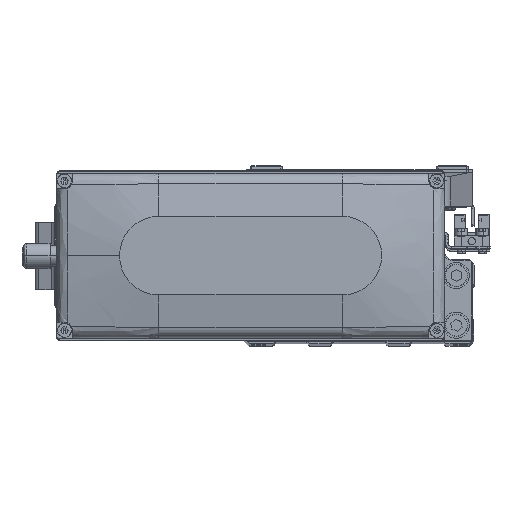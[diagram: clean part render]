
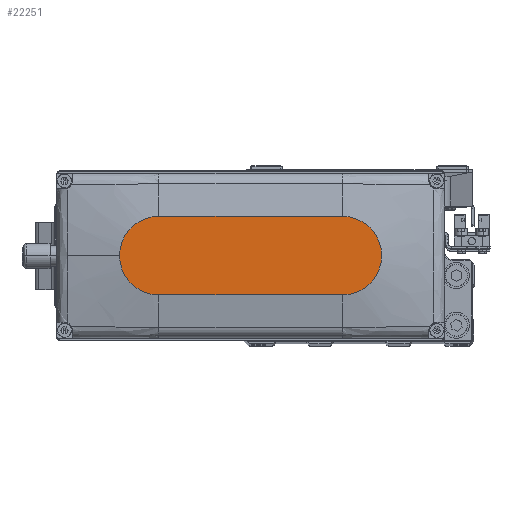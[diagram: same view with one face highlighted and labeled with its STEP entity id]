
A CAD part, top view. The second image highlights one B-rep face of the part: STEP entity #22251.
In plain terms, the highlighted planar face has unit normal (0, 0, 1).
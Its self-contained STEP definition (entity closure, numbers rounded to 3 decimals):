
#75 = CIRCLE ( 'NONE', #27235, 15. ) ;
#492 = VERTEX_POINT ( 'NONE', #5574 ) ;
#1291 = DIRECTION ( 'NONE',  ( -1., 0., 0. ) ) ;
#1628 = DIRECTION ( 'NONE',  ( 1., 0., 0. ) ) ;
#2355 = AXIS2_PLACEMENT_3D ( 'NONE', #44671, #11389, #26225 ) ;
#2997 = FACE_OUTER_BOUND ( 'NONE', #30072, .T. ) ;
#5426 = ORIENTED_EDGE ( 'NONE', *, *, #17636, .T. ) ;
#5574 = CARTESIAN_POINT ( 'NONE',  ( 35., 15., 35. ) ) ;
#8820 = CARTESIAN_POINT ( 'NONE',  ( 35., 0., 35. ) ) ;
#10199 = DIRECTION ( 'NONE',  ( 1., 0., 0. ) ) ;
#11389 = DIRECTION ( 'NONE',  ( 0., 0., 1. ) ) ;
#11581 = ORIENTED_EDGE ( 'NONE', *, *, #16905, .T. ) ;
#12716 = VERTEX_POINT ( 'NONE', #15698 ) ;
#14151 = DIRECTION ( 'NONE',  ( 1., 0., 0. ) ) ;
#14951 = ORIENTED_EDGE ( 'NONE', *, *, #19701, .T. ) ;
#15698 = CARTESIAN_POINT ( 'NONE',  ( 35., -15., 35. ) ) ;
#15806 = AXIS2_PLACEMENT_3D ( 'NONE', #32636, #47435, #14151 ) ;
#16905 = EDGE_CURVE ( 'NONE', #26587, #38894, #45414, .T. ) ;
#17636 = EDGE_CURVE ( 'NONE', #38894, #12716, #20071, .T. ) ;
#17794 = PLANE ( 'NONE',  #15806 ) ;
#18817 = VECTOR ( 'NONE', #1291, 1000. ) ;
#19701 = EDGE_CURVE ( 'NONE', #492, #26587, #19735, .T. ) ;
#19735 = LINE ( 'NONE', #34569, #18817 ) ;
#20071 = LINE ( 'NONE', #34910, #31522 ) ;
#22251 = ADVANCED_FACE ( 'NONE', ( #2997 ), #17794, .T. ) ;
#22279 = ORIENTED_EDGE ( 'NONE', *, *, #26444, .T. ) ;
#23311 = CIRCLE ( 'NONE', #2355, 15. ) ;
#23509 = CARTESIAN_POINT ( 'NONE',  ( -35., 15., 35. ) ) ;
#23639 = DIRECTION ( 'NONE',  ( 0., 0., 1. ) ) ;
#24468 = AXIS2_PLACEMENT_3D ( 'NONE', #28675, #43476, #10199 ) ;
#26225 = DIRECTION ( 'NONE',  ( 1., 0., 0. ) ) ;
#26444 = EDGE_CURVE ( 'NONE', #46432, #492, #23311, .T. ) ;
#26587 = VERTEX_POINT ( 'NONE', #23509 ) ;
#26984 = EDGE_CURVE ( 'NONE', #12716, #46432, #75, .T. ) ;
#27235 = AXIS2_PLACEMENT_3D ( 'NONE', #8820, #23639, #38461 ) ;
#28675 = CARTESIAN_POINT ( 'NONE',  ( -35., 0., 35. ) ) ;
#29416 = ORIENTED_EDGE ( 'NONE', *, *, #26984, .T. ) ;
#30072 = EDGE_LOOP ( 'NONE', ( #14951, #11581, #5426, #29416, #22279 ) ) ;
#31522 = VECTOR ( 'NONE', #1628, 1000. ) ;
#32636 = CARTESIAN_POINT ( 'NONE',  ( 0., 0., 35. ) ) ;
#34569 = CARTESIAN_POINT ( 'NONE',  ( -35., 15., 35. ) ) ;
#34910 = CARTESIAN_POINT ( 'NONE',  ( -35., -15., 35. ) ) ;
#38461 = DIRECTION ( 'NONE',  ( 1., 0., 0. ) ) ;
#38894 = VERTEX_POINT ( 'NONE', #45121 ) ;
#43476 = DIRECTION ( 'NONE',  ( 0., 0., 1. ) ) ;
#44173 = CARTESIAN_POINT ( 'NONE',  ( 50., 0., 35. ) ) ;
#44671 = CARTESIAN_POINT ( 'NONE',  ( 35., 0., 35. ) ) ;
#45121 = CARTESIAN_POINT ( 'NONE',  ( -35., -15., 35. ) ) ;
#45414 = CIRCLE ( 'NONE', #24468, 15. ) ;
#46432 = VERTEX_POINT ( 'NONE', #44173 ) ;
#47435 = DIRECTION ( 'NONE',  ( 0., 0., 1. ) ) ;
